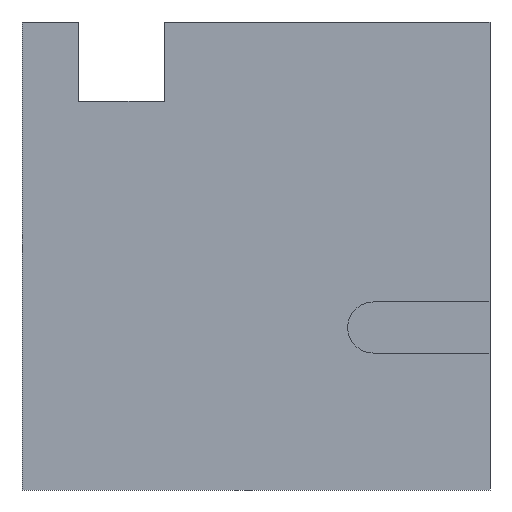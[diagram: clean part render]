
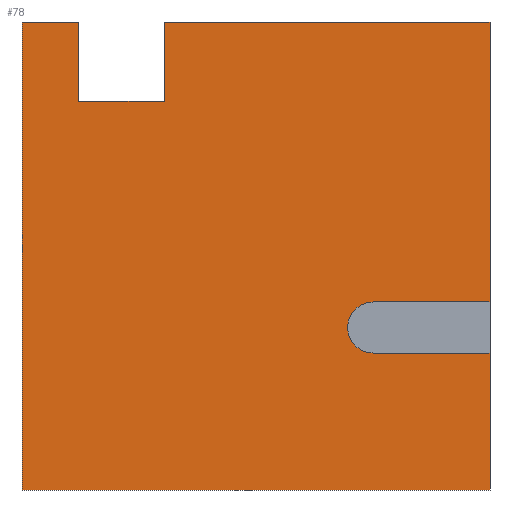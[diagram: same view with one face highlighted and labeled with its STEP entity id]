
A CAD part, front view. The second image highlights one B-rep face of the part: STEP entity #78.
In plain terms, the highlighted planar face has unit normal (0, -1, 0).
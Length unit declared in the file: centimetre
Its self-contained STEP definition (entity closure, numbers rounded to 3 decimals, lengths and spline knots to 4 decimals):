
#6 = CARTESIAN_POINT ( 'NONE',  ( 1000., 0., 401.721 ) ) ;
#7 = LINE ( 'NONE', #508, #621 ) ;
#8 = ORIENTED_EDGE ( 'NONE', *, *, #567, .T. ) ;
#30 = VECTOR ( 'NONE', #86, 100. ) ;
#42 = VERTEX_POINT ( 'NONE', #293 ) ;
#52 = DIRECTION ( 'NONE',  ( 0., 0., -1. ) ) ;
#56 = DIRECTION ( 'NONE',  ( 0., -1., 0. ) ) ;
#69 = CARTESIAN_POINT ( 'NONE',  ( 303.7776, 0., 830.2424 ) ) ;
#78 = ADVANCED_FACE ( 'NONE', ( #282 ), #780, .F. ) ;
#80 = CARTESIAN_POINT ( 'NONE',  ( 1000., 0., 1000. ) ) ;
#85 = ORIENTED_EDGE ( 'NONE', *, *, #432, .T. ) ;
#86 = DIRECTION ( 'NONE',  ( 1., 0., 0. ) ) ;
#88 = VERTEX_POINT ( 'NONE', #154 ) ;
#93 = VECTOR ( 'NONE', #752, 100. ) ;
#103 = VERTEX_POINT ( 'NONE', #6 ) ;
#119 = VERTEX_POINT ( 'NONE', #69 ) ;
#122 = CARTESIAN_POINT ( 'NONE',  ( 750.4344, 0., 292.6594 ) ) ;
#137 = LINE ( 'NONE', #510, #93 ) ;
#140 = LINE ( 'NONE', #294, #173 ) ;
#151 = VERTEX_POINT ( 'NONE', #80 ) ;
#154 = CARTESIAN_POINT ( 'NONE',  ( 121.2945, 0., 830.2424 ) ) ;
#161 = CARTESIAN_POINT ( 'NONE',  ( 0., 0., 1000. ) ) ;
#168 = DIRECTION ( 'NONE',  ( 0., 0., 1. ) ) ;
#173 = VECTOR ( 'NONE', #342, 100. ) ;
#195 = VECTOR ( 'NONE', #690, 100. ) ;
#196 = VECTOR ( 'NONE', #472, 100. ) ;
#205 = CARTESIAN_POINT ( 'NONE',  ( 303.7776, 0., 830.2424 ) ) ;
#211 = VERTEX_POINT ( 'NONE', #758 ) ;
#215 = CARTESIAN_POINT ( 'NONE',  ( 0., 0., 0. ) ) ;
#219 = DIRECTION ( 'NONE',  ( 0., 1., 0. ) ) ;
#230 = VECTOR ( 'NONE', #168, 100. ) ;
#247 = EDGE_CURVE ( 'NONE', #103, #512, #638, .T. ) ;
#248 = ORIENTED_EDGE ( 'NONE', *, *, #631, .T. ) ;
#252 = VECTOR ( 'NONE', #477, 100. ) ;
#258 = CARTESIAN_POINT ( 'NONE',  ( 1000., 0., 292.6594 ) ) ;
#282 = FACE_OUTER_BOUND ( 'NONE', #369, .T. ) ;
#288 = LINE ( 'NONE', #405, #30 ) ;
#293 = CARTESIAN_POINT ( 'NONE',  ( 1000., 0., 0. ) ) ;
#294 = CARTESIAN_POINT ( 'NONE',  ( 1000., 0., 1000. ) ) ;
#316 = DIRECTION ( 'NONE',  ( 0., 0., -1. ) ) ;
#322 = VERTEX_POINT ( 'NONE', #258 ) ;
#323 = EDGE_CURVE ( 'NONE', #211, #785, #7, .T. ) ;
#342 = DIRECTION ( 'NONE',  ( 0., 0., -1. ) ) ;
#360 = DIRECTION ( 'NONE',  ( 0., 0., -1. ) ) ;
#369 = EDGE_LOOP ( 'NONE', ( #469, #554, #463, #673, #85, #474, #248, #728, #525, #8, #611, #616 ) ) ;
#378 = DIRECTION ( 'NONE',  ( 1., 0., 0. ) ) ;
#384 = LINE ( 'NONE', #628, #705 ) ;
#401 = EDGE_CURVE ( 'NONE', #151, #103, #137, .T. ) ;
#405 = CARTESIAN_POINT ( 'NONE',  ( 0., 0., 1000. ) ) ;
#415 = AXIS2_PLACEMENT_3D ( 'NONE', #615, #56, #52 ) ;
#432 = EDGE_CURVE ( 'NONE', #592, #119, #585, .T. ) ;
#438 = CARTESIAN_POINT ( 'NONE',  ( 121.2945, 0., 830.2424 ) ) ;
#445 = CARTESIAN_POINT ( 'NONE',  ( 1000., 0., 401.721 ) ) ;
#463 = ORIENTED_EDGE ( 'NONE', *, *, #401, .F. ) ;
#469 = ORIENTED_EDGE ( 'NONE', *, *, #685, .F. ) ;
#472 = DIRECTION ( 'NONE',  ( 1., 0., 0. ) ) ;
#474 = ORIENTED_EDGE ( 'NONE', *, *, #505, .T. ) ;
#476 = DIRECTION ( 'NONE',  ( 0., 0., 1. ) ) ;
#477 = DIRECTION ( 'NONE',  ( -1., 0., 0. ) ) ;
#488 = CARTESIAN_POINT ( 'NONE',  ( 303.7776, 0., 1000. ) ) ;
#495 = EDGE_CURVE ( 'NONE', #592, #151, #288, .T. ) ;
#505 = EDGE_CURVE ( 'NONE', #119, #88, #771, .T. ) ;
#508 = CARTESIAN_POINT ( 'NONE',  ( 0., 0., 1000. ) ) ;
#510 = CARTESIAN_POINT ( 'NONE',  ( 1000., 0., 1000. ) ) ;
#512 = VERTEX_POINT ( 'NONE', #708 ) ;
#525 = ORIENTED_EDGE ( 'NONE', *, *, #782, .T. ) ;
#544 = EDGE_CURVE ( 'NONE', #322, #42, #140, .T. ) ;
#554 = ORIENTED_EDGE ( 'NONE', *, *, #247, .F. ) ;
#555 = LINE ( 'NONE', #807, #623 ) ;
#567 = EDGE_CURVE ( 'NONE', #772, #42, #776, .T. ) ;
#580 = DIRECTION ( 'NONE',  ( 1., 0., 0. ) ) ;
#585 = LINE ( 'NONE', #205, #594 ) ;
#589 = CARTESIAN_POINT ( 'NONE',  ( 121.2945, 0., 830.2424 ) ) ;
#592 = VERTEX_POINT ( 'NONE', #488 ) ;
#594 = VECTOR ( 'NONE', #360, 100. ) ;
#611 = ORIENTED_EDGE ( 'NONE', *, *, #544, .F. ) ;
#615 = CARTESIAN_POINT ( 'NONE',  ( 750.4344, 0., 347.1902 ) ) ;
#616 = ORIENTED_EDGE ( 'NONE', *, *, #706, .F. ) ;
#619 = LINE ( 'NONE', #438, #230 ) ;
#621 = VECTOR ( 'NONE', #580, 100. ) ;
#623 = VECTOR ( 'NONE', #378, 100. ) ;
#628 = CARTESIAN_POINT ( 'NONE',  ( 0., 0., 1000. ) ) ;
#631 = EDGE_CURVE ( 'NONE', #88, #785, #619, .T. ) ;
#638 = LINE ( 'NONE', #445, #195 ) ;
#673 = ORIENTED_EDGE ( 'NONE', *, *, #495, .F. ) ;
#685 = EDGE_CURVE ( 'NONE', #512, #779, #760, .T. ) ;
#689 = CARTESIAN_POINT ( 'NONE',  ( 0., 0., 0. ) ) ;
#690 = DIRECTION ( 'NONE',  ( -1., 0., 0. ) ) ;
#705 = VECTOR ( 'NONE', #316, 100. ) ;
#706 = EDGE_CURVE ( 'NONE', #779, #322, #555, .T. ) ;
#708 = CARTESIAN_POINT ( 'NONE',  ( 750.4344, 0., 401.721 ) ) ;
#713 = CARTESIAN_POINT ( 'NONE',  ( 121.2945, 0., 1000. ) ) ;
#728 = ORIENTED_EDGE ( 'NONE', *, *, #323, .F. ) ;
#737 = AXIS2_PLACEMENT_3D ( 'NONE', #161, #219, #476 ) ;
#752 = DIRECTION ( 'NONE',  ( 0., 0., -1. ) ) ;
#758 = CARTESIAN_POINT ( 'NONE',  ( 0., 0., 1000. ) ) ;
#760 = CIRCLE ( 'NONE', #415, 54.5308 ) ;
#771 = LINE ( 'NONE', #589, #252 ) ;
#772 = VERTEX_POINT ( 'NONE', #689 ) ;
#776 = LINE ( 'NONE', #215, #196 ) ;
#779 = VERTEX_POINT ( 'NONE', #122 ) ;
#780 = PLANE ( 'NONE',  #737 ) ;
#782 = EDGE_CURVE ( 'NONE', #211, #772, #384, .T. ) ;
#785 = VERTEX_POINT ( 'NONE', #713 ) ;
#807 = CARTESIAN_POINT ( 'NONE',  ( 750.4344, 0., 292.6594 ) ) ;
